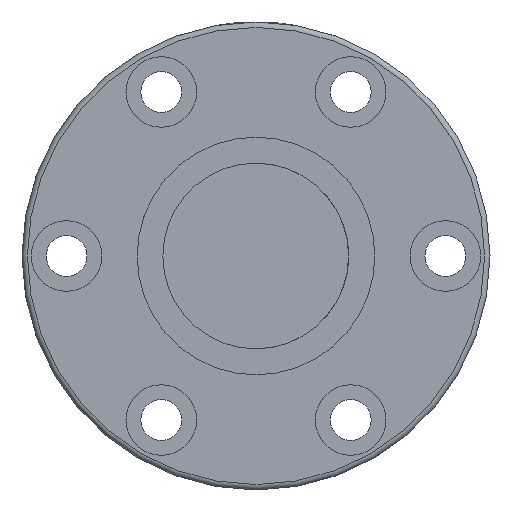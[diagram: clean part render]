
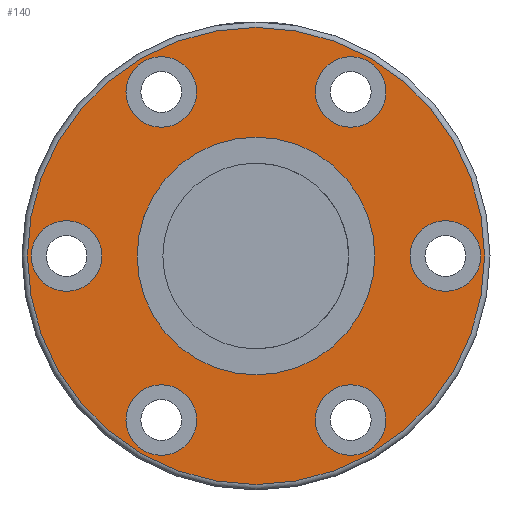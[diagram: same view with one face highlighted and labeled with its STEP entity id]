
A CAD part, front view. The second image highlights one B-rep face of the part: STEP entity #140.
In plain terms, the highlighted planar face has unit normal (0, -1, 0).
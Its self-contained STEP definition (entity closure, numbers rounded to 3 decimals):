
#140=ADVANCED_FACE('',(#203,#204,#205,#206,#207,#208,#209,#210),#185,.F.);
#185=PLANE('',#682);
#203=FACE_BOUND('',#300,.T.);
#204=FACE_BOUND('',#301,.T.);
#205=FACE_BOUND('',#302,.T.);
#206=FACE_BOUND('',#303,.T.);
#207=FACE_BOUND('',#304,.T.);
#208=FACE_BOUND('',#305,.T.);
#209=FACE_BOUND('',#306,.T.);
#210=FACE_BOUND('',#307,.T.);
#300=EDGE_LOOP('',(#400));
#301=EDGE_LOOP('',(#401));
#302=EDGE_LOOP('',(#402));
#303=EDGE_LOOP('',(#403));
#304=EDGE_LOOP('',(#404));
#305=EDGE_LOOP('',(#405));
#306=EDGE_LOOP('',(#406));
#307=EDGE_LOOP('',(#407));
#400=ORIENTED_EDGE('',*,*,#566,.T.);
#401=ORIENTED_EDGE('',*,*,#567,.T.);
#402=ORIENTED_EDGE('',*,*,#568,.T.);
#403=ORIENTED_EDGE('',*,*,#569,.T.);
#404=ORIENTED_EDGE('',*,*,#570,.T.);
#405=ORIENTED_EDGE('',*,*,#571,.T.);
#406=ORIENTED_EDGE('',*,*,#572,.T.);
#407=ORIENTED_EDGE('',*,*,#573,.F.);
#512=VERTEX_POINT('',#968);
#513=VERTEX_POINT('',#970);
#514=VERTEX_POINT('',#972);
#515=VERTEX_POINT('',#974);
#516=VERTEX_POINT('',#976);
#517=VERTEX_POINT('',#978);
#518=VERTEX_POINT('',#980);
#519=VERTEX_POINT('',#982);
#566=EDGE_CURVE('',#512,#512,#622,.T.);
#567=EDGE_CURVE('',#513,#513,#623,.T.);
#568=EDGE_CURVE('',#514,#514,#624,.T.);
#569=EDGE_CURVE('',#515,#515,#625,.T.);
#570=EDGE_CURVE('',#516,#516,#626,.T.);
#571=EDGE_CURVE('',#517,#517,#627,.T.);
#572=EDGE_CURVE('',#518,#518,#628,.T.);
#573=EDGE_CURVE('',#519,#519,#629,.T.);
#622=CIRCLE('',#674,4.75);
#623=CIRCLE('',#675,4.75);
#624=CIRCLE('',#676,4.75);
#625=CIRCLE('',#677,4.75);
#626=CIRCLE('',#678,4.75);
#627=CIRCLE('',#679,4.75);
#628=CIRCLE('',#680,30.767);
#629=CIRCLE('',#681,16.);
#674=AXIS2_PLACEMENT_3D('',#967,#772,#773);
#675=AXIS2_PLACEMENT_3D('',#969,#774,#775);
#676=AXIS2_PLACEMENT_3D('',#971,#776,#777);
#677=AXIS2_PLACEMENT_3D('',#973,#778,#779);
#678=AXIS2_PLACEMENT_3D('',#975,#780,#781);
#679=AXIS2_PLACEMENT_3D('',#977,#782,#783);
#680=AXIS2_PLACEMENT_3D('',#979,#784,#785);
#681=AXIS2_PLACEMENT_3D('',#981,#786,#787);
#682=AXIS2_PLACEMENT_3D('',#983,#788,#789);
#772=DIRECTION('',(0.,1.,0.));
#773=DIRECTION('',(0.,0.,1.));
#774=DIRECTION('',(0.,1.,0.));
#775=DIRECTION('',(0.,0.,1.));
#776=DIRECTION('',(0.,1.,0.));
#777=DIRECTION('',(0.,0.,1.));
#778=DIRECTION('',(0.,1.,0.));
#779=DIRECTION('',(0.,0.,1.));
#780=DIRECTION('',(0.,1.,0.));
#781=DIRECTION('',(0.,0.,1.));
#782=DIRECTION('',(0.,1.,0.));
#783=DIRECTION('',(0.,0.,1.));
#784=DIRECTION('',(0.,-1.,0.));
#785=DIRECTION('',(0.,0.,1.));
#786=DIRECTION('',(0.,-1.,0.));
#787=DIRECTION('',(1.,0.,0.));
#788=DIRECTION('',(0.,1.,0.));
#789=DIRECTION('',(0.,0.,-1.));
#967=CARTESIAN_POINT('',(25.539,-25.461,0.));
#968=CARTESIAN_POINT('',(25.539,-25.461,4.75));
#969=CARTESIAN_POINT('',(-25.461,-25.461,0.));
#970=CARTESIAN_POINT('',(-25.461,-25.461,4.75));
#971=CARTESIAN_POINT('',(12.789,-25.461,-22.084));
#972=CARTESIAN_POINT('',(12.789,-25.461,-17.334));
#973=CARTESIAN_POINT('',(-12.711,-25.461,-22.084));
#974=CARTESIAN_POINT('',(-12.711,-25.461,-17.334));
#975=CARTESIAN_POINT('',(12.789,-25.461,22.084));
#976=CARTESIAN_POINT('',(12.789,-25.461,26.834));
#977=CARTESIAN_POINT('',(-12.711,-25.461,22.084));
#978=CARTESIAN_POINT('',(-12.711,-25.461,26.834));
#979=CARTESIAN_POINT('',(0.039,-25.461,0.));
#980=CARTESIAN_POINT('',(0.039,-25.461,30.767));
#981=CARTESIAN_POINT('',(0.039,-25.461,0.));
#982=CARTESIAN_POINT('',(16.039,-25.461,0.));
#983=CARTESIAN_POINT('',(0.039,-25.461,0.));
